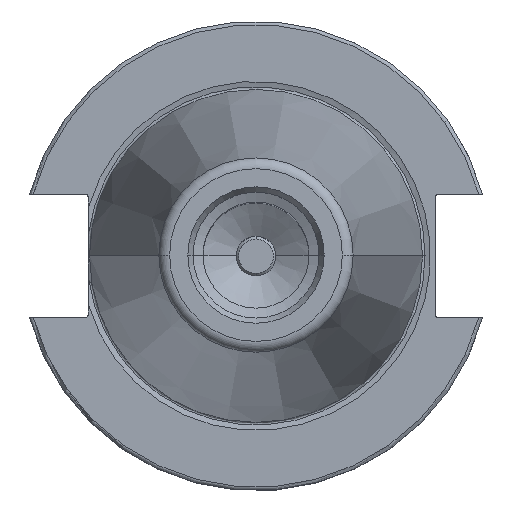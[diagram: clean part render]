
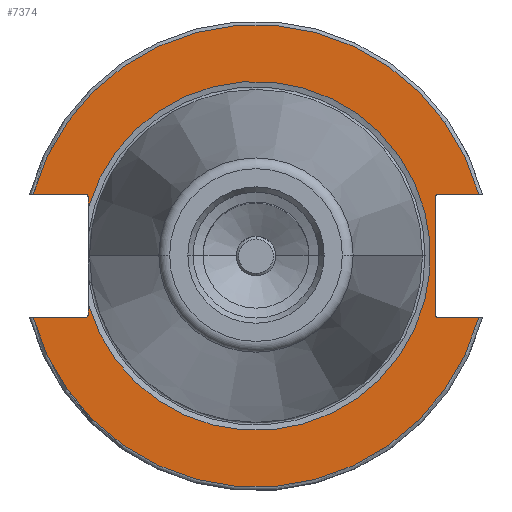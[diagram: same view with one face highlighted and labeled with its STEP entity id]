
A CAD part, top view. The second image highlights one B-rep face of the part: STEP entity #7374.
In plain terms, the highlighted planar face has unit normal (0, 0, 1).
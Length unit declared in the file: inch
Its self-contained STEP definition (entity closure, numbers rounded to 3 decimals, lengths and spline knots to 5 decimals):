
#1 = DIRECTION ( 'NONE',  ( 0., 0., -1. ) ) ;
#227 = CIRCLE ( 'NONE', #7079, 0.03 ) ;
#273 = CARTESIAN_POINT ( 'NONE',  ( 1.4775, -0.48, -0.125 ) ) ;
#508 = VERTEX_POINT ( 'NONE', #273 ) ;
#582 = VECTOR ( 'NONE', #4999, 39.37008 ) ;
#619 = EDGE_CURVE ( 'NONE', #6009, #4958, #1631, .T. ) ;
#712 = CIRCLE ( 'NONE', #1526, 0.03 ) ;
#857 = VECTOR ( 'NONE', #4009, 39.37008 ) ;
#913 = DIRECTION ( 'NONE',  ( 0., 0., 1. ) ) ;
#926 = EDGE_CURVE ( 'NONE', #8728, #4894, #2720, .T. ) ;
#927 = CARTESIAN_POINT ( 'NONE',  ( -1.3825, -1.9075, -0.125 ) ) ;
#932 = CARTESIAN_POINT ( 'NONE',  ( -1.4125, -0.51, -0.125 ) ) ;
#952 = CIRCLE ( 'NONE', #2708, 1.43979 ) ;
#1038 = AXIS2_PLACEMENT_3D ( 'NONE', #2514, #5543, #8574 ) ;
#1225 = EDGE_CURVE ( 'NONE', #9763, #8679, #6247, .T. ) ;
#1453 = DIRECTION ( 'NONE',  ( 0., 0., -1. ) ) ;
#1526 = AXIS2_PLACEMENT_3D ( 'NONE', #9313, #6407, #8033 ) ;
#1570 = DIRECTION ( 'NONE',  ( 1., 0., 0. ) ) ;
#1631 = LINE ( 'NONE', #927, #4654 ) ;
#1753 = ORIENTED_EDGE ( 'NONE', *, *, #6158, .T. ) ;
#1757 = PLANE ( 'NONE',  #4450 ) ;
#1794 = CARTESIAN_POINT ( 'NONE',  ( -1.4125, -0.48, -0.125 ) ) ;
#1795 = EDGE_CURVE ( 'NONE', #3844, #508, #712, .T. ) ;
#1841 = EDGE_CURVE ( 'NONE', #2966, #4894, #9605, .T. ) ;
#1978 = VERTEX_POINT ( 'NONE', #5628 ) ;
#2034 = AXIS2_PLACEMENT_3D ( 'NONE', #8246, #1453, #5827 ) ;
#2156 = LINE ( 'NONE', #4440, #5250 ) ;
#2452 = DIRECTION ( 'NONE',  ( 0., 0., -1. ) ) ;
#2514 = CARTESIAN_POINT ( 'NONE',  ( 0., 0., -0.125 ) ) ;
#2632 = ORIENTED_EDGE ( 'NONE', *, *, #5469, .F. ) ;
#2641 = DIRECTION ( 'NONE',  ( -1., 0., 0. ) ) ;
#2708 = AXIS2_PLACEMENT_3D ( 'NONE', #6220, #6316, #6863 ) ;
#2716 = CARTESIAN_POINT ( 'NONE',  ( -1.83806, -0.51, -0.125 ) ) ;
#2720 = LINE ( 'NONE', #5753, #857 ) ;
#2795 = CARTESIAN_POINT ( 'NONE',  ( -1.3825, -0.40209, -0.125 ) ) ;
#2966 = VERTEX_POINT ( 'NONE', #3737 ) ;
#2993 = EDGE_CURVE ( 'NONE', #9406, #9763, #4723, .T. ) ;
#3024 = CARTESIAN_POINT ( 'NONE',  ( 1.5075, 0.51, -0.125 ) ) ;
#3052 = DIRECTION ( 'NONE',  ( -1., 0., 0. ) ) ;
#3100 = CARTESIAN_POINT ( 'NONE',  ( 0., -1.9075, -0.125 ) ) ;
#3403 = CARTESIAN_POINT ( 'NONE',  ( 0., 0.51, -0.125 ) ) ;
#3690 = AXIS2_PLACEMENT_3D ( 'NONE', #3990, #2452, #8460 ) ;
#3737 = CARTESIAN_POINT ( 'NONE',  ( 1.83806, -0.51, -0.125 ) ) ;
#3739 = CARTESIAN_POINT ( 'NONE',  ( 1.5075, -0.51, -0.125 ) ) ;
#3763 = ORIENTED_EDGE ( 'NONE', *, *, #1841, .F. ) ;
#3844 = VERTEX_POINT ( 'NONE', #3739 ) ;
#3946 = EDGE_CURVE ( 'NONE', #6383, #6009, #952, .T. ) ;
#3990 = CARTESIAN_POINT ( 'NONE',  ( -1.4125, 0.48, -0.125 ) ) ;
#4009 = DIRECTION ( 'NONE',  ( -1., 0., 0. ) ) ;
#4208 = CARTESIAN_POINT ( 'NONE',  ( -1.3825, -0.48, -0.125 ) ) ;
#4440 = CARTESIAN_POINT ( 'NONE',  ( -1.3825, -1.9075, -0.125 ) ) ;
#4450 = AXIS2_PLACEMENT_3D ( 'NONE', #3100, #913, #1570 ) ;
#4586 = ORIENTED_EDGE ( 'NONE', *, *, #1225, .F. ) ;
#4654 = VECTOR ( 'NONE', #6902, 39.37008 ) ;
#4679 = VERTEX_POINT ( 'NONE', #7592 ) ;
#4723 = CIRCLE ( 'NONE', #2034, 1.9075 ) ;
#4894 = VERTEX_POINT ( 'NONE', #2716 ) ;
#4914 = ORIENTED_EDGE ( 'NONE', *, *, #8216, .T. ) ;
#4935 = ORIENTED_EDGE ( 'NONE', *, *, #5911, .T. ) ;
#4949 = CARTESIAN_POINT ( 'NONE',  ( 0., -0.51, -0.125 ) ) ;
#4958 = VERTEX_POINT ( 'NONE', #4208 ) ;
#4999 = DIRECTION ( 'NONE',  ( 1., 0., 0. ) ) ;
#5001 = ORIENTED_EDGE ( 'NONE', *, *, #2993, .F. ) ;
#5082 = DIRECTION ( 'NONE',  ( 0., -1., 0. ) ) ;
#5089 = ORIENTED_EDGE ( 'NONE', *, *, #3946, .T. ) ;
#5150 = LINE ( 'NONE', #4949, #582 ) ;
#5215 = EDGE_CURVE ( 'NONE', #9673, #1978, #7651, .T. ) ;
#5250 = VECTOR ( 'NONE', #5082, 39.37008 ) ;
#5353 = ORIENTED_EDGE ( 'NONE', *, *, #8862, .F. ) ;
#5376 = AXIS2_PLACEMENT_3D ( 'NONE', #1794, #6477, #2641 ) ;
#5451 = ORIENTED_EDGE ( 'NONE', *, *, #5215, .T. ) ;
#5469 = EDGE_CURVE ( 'NONE', #4679, #508, #6199, .T. ) ;
#5543 = DIRECTION ( 'NONE',  ( 0., 0., -1. ) ) ;
#5628 = CARTESIAN_POINT ( 'NONE',  ( -1.3825, 0.48, -0.125 ) ) ;
#5650 = CARTESIAN_POINT ( 'NONE',  ( -1.4125, 0.51, -0.125 ) ) ;
#5696 = VECTOR ( 'NONE', #8536, 39.37008 ) ;
#5753 = CARTESIAN_POINT ( 'NONE',  ( 0., -0.51, -0.125 ) ) ;
#5827 = DIRECTION ( 'NONE',  ( 1., 0., 0. ) ) ;
#5857 = CARTESIAN_POINT ( 'NONE',  ( 1.83806, 0.51, -0.125 ) ) ;
#5911 = EDGE_CURVE ( 'NONE', #4958, #8728, #6182, .T. ) ;
#6009 = VERTEX_POINT ( 'NONE', #2795 ) ;
#6078 = LINE ( 'NONE', #6866, #5696 ) ;
#6150 = CARTESIAN_POINT ( 'NONE',  ( 1.4775, -1.9075, -0.125 ) ) ;
#6158 = EDGE_CURVE ( 'NONE', #9406, #9673, #6078, .T. ) ;
#6182 = CIRCLE ( 'NONE', #5376, 0.03 ) ;
#6199 = LINE ( 'NONE', #6150, #7187 ) ;
#6202 = CARTESIAN_POINT ( 'NONE',  ( -1.3825, 0.40209, -0.125 ) ) ;
#6220 = CARTESIAN_POINT ( 'NONE',  ( 0., 0., -0.125 ) ) ;
#6247 = LINE ( 'NONE', #3403, #6430 ) ;
#6316 = DIRECTION ( 'NONE',  ( 0., 0., -1. ) ) ;
#6383 = VERTEX_POINT ( 'NONE', #6202 ) ;
#6407 = DIRECTION ( 'NONE',  ( 0., 0., -1. ) ) ;
#6430 = VECTOR ( 'NONE', #9252, 39.37008 ) ;
#6477 = DIRECTION ( 'NONE',  ( 0., 0., -1. ) ) ;
#6495 = ORIENTED_EDGE ( 'NONE', *, *, #926, .T. ) ;
#6738 = ORIENTED_EDGE ( 'NONE', *, *, #1795, .T. ) ;
#6833 = ORIENTED_EDGE ( 'NONE', *, *, #619, .T. ) ;
#6863 = DIRECTION ( 'NONE',  ( 1., 0., 0. ) ) ;
#6866 = CARTESIAN_POINT ( 'NONE',  ( 0., 0.51, -0.125 ) ) ;
#6902 = DIRECTION ( 'NONE',  ( 0., -1., 0. ) ) ;
#7036 = DIRECTION ( 'NONE',  ( 0., -1., 0. ) ) ;
#7079 = AXIS2_PLACEMENT_3D ( 'NONE', #8407, #1, #3052 ) ;
#7135 = EDGE_LOOP ( 'NONE', ( #4586, #5001, #1753, #5451, #8358, #5089, #6833, #4935, #6495, #3763, #5353, #6738, #2632, #4914 ) ) ;
#7187 = VECTOR ( 'NONE', #7036, 39.37008 ) ;
#7374 = ADVANCED_FACE ( 'NONE', ( #8504 ), #1757, .T. ) ;
#7592 = CARTESIAN_POINT ( 'NONE',  ( 1.4775, 0.48, -0.125 ) ) ;
#7620 = EDGE_CURVE ( 'NONE', #1978, #6383, #2156, .T. ) ;
#7651 = CIRCLE ( 'NONE', #3690, 0.03 ) ;
#8033 = DIRECTION ( 'NONE',  ( -1., 0., 0. ) ) ;
#8216 = EDGE_CURVE ( 'NONE', #4679, #8679, #227, .T. ) ;
#8246 = CARTESIAN_POINT ( 'NONE',  ( 0., 0., -0.125 ) ) ;
#8358 = ORIENTED_EDGE ( 'NONE', *, *, #7620, .T. ) ;
#8407 = CARTESIAN_POINT ( 'NONE',  ( 1.5075, 0.48, -0.125 ) ) ;
#8455 = CARTESIAN_POINT ( 'NONE',  ( -1.83806, 0.51, -0.125 ) ) ;
#8460 = DIRECTION ( 'NONE',  ( -1., 0., 0. ) ) ;
#8504 = FACE_OUTER_BOUND ( 'NONE', #7135, .T. ) ;
#8536 = DIRECTION ( 'NONE',  ( 1., 0., 0. ) ) ;
#8574 = DIRECTION ( 'NONE',  ( 1., 0., 0. ) ) ;
#8679 = VERTEX_POINT ( 'NONE', #3024 ) ;
#8728 = VERTEX_POINT ( 'NONE', #932 ) ;
#8862 = EDGE_CURVE ( 'NONE', #3844, #2966, #5150, .T. ) ;
#9252 = DIRECTION ( 'NONE',  ( -1., 0., 0. ) ) ;
#9313 = CARTESIAN_POINT ( 'NONE',  ( 1.5075, -0.48, -0.125 ) ) ;
#9406 = VERTEX_POINT ( 'NONE', #8455 ) ;
#9605 = CIRCLE ( 'NONE', #1038, 1.9075 ) ;
#9673 = VERTEX_POINT ( 'NONE', #5650 ) ;
#9763 = VERTEX_POINT ( 'NONE', #5857 ) ;
